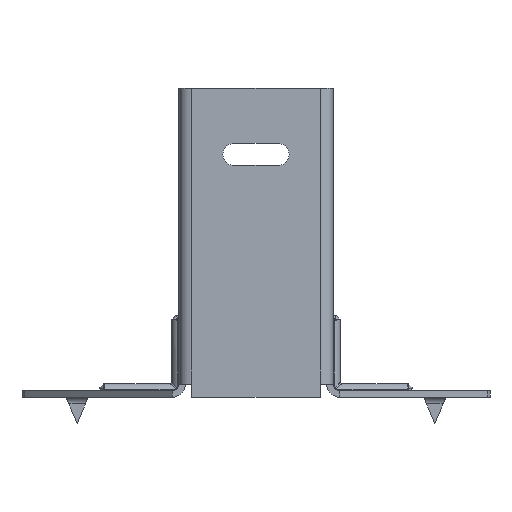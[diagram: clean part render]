
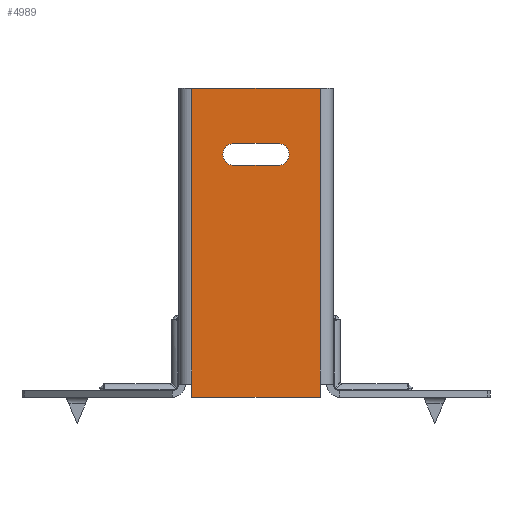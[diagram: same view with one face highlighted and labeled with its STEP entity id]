
A CAD part, front view. The second image highlights one B-rep face of the part: STEP entity #4989.
In plain terms, the highlighted planar face has unit normal (0, -1, 0).
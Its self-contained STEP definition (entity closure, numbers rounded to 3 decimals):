
#66 = VERTEX_POINT ( 'NONE', #2109 ) ;
#146 = ORIENTED_EDGE ( 'NONE', *, *, #16174, .T. ) ;
#246 = ORIENTED_EDGE ( 'NONE', *, *, #12665, .F. ) ;
#302 = CIRCLE ( 'NONE', #14723, 2.5 ) ;
#494 = EDGE_CURVE ( 'NONE', #9138, #4242, #302, .T. ) ;
#599 = PLANE ( 'NONE',  #5162 ) ;
#997 = VECTOR ( 'NONE', #2144, 1000. ) ;
#1013 = DIRECTION ( 'NONE',  ( 0., 1., 0. ) ) ;
#1116 = VECTOR ( 'NONE', #7525, 1000. ) ;
#1640 = CARTESIAN_POINT ( 'NONE',  ( -16., 0., 0. ) ) ;
#1842 = CARTESIAN_POINT ( 'NONE',  ( -14.5, 0., -67. ) ) ;
#1929 = FACE_OUTER_BOUND ( 'NONE', #13924, .T. ) ;
#2019 = DIRECTION ( 'NONE',  ( 0., 1., 0. ) ) ;
#2044 = ORIENTED_EDGE ( 'NONE', *, *, #7230, .F. ) ;
#2109 = CARTESIAN_POINT ( 'NONE',  ( 14.5, 0., -67. ) ) ;
#2144 = DIRECTION ( 'NONE',  ( 0., 0., 1. ) ) ;
#2525 = LINE ( 'NONE', #13162, #16282 ) ;
#2926 = EDGE_LOOP ( 'NONE', ( #8984, #7632, #146, #4651 ) ) ;
#3240 = CARTESIAN_POINT ( 'NONE',  ( 5., 0., -15. ) ) ;
#3322 = CARTESIAN_POINT ( 'NONE',  ( -5., 0., -12.5 ) ) ;
#3440 = ORIENTED_EDGE ( 'NONE', *, *, #13920, .T. ) ;
#3665 = DIRECTION ( 'NONE',  ( 0., 0., 1. ) ) ;
#3931 = LINE ( 'NONE', #4703, #1116 ) ;
#4242 = VERTEX_POINT ( 'NONE', #12022 ) ;
#4651 = ORIENTED_EDGE ( 'NONE', *, *, #494, .T. ) ;
#4703 = CARTESIAN_POINT ( 'NONE',  ( -5., 0., -17.5 ) ) ;
#4734 = ORIENTED_EDGE ( 'NONE', *, *, #8776, .T. ) ;
#4851 = VERTEX_POINT ( 'NONE', #15616 ) ;
#4989 = ADVANCED_FACE ( 'NONE', ( #12058, #1929 ), #599, .F. ) ;
#5162 = AXIS2_PLACEMENT_3D ( 'NONE', #9265, #1013, #10639 ) ;
#5367 = AXIS2_PLACEMENT_3D ( 'NONE', #10492, #2019, #3665 ) ;
#5635 = LINE ( 'NONE', #14764, #6307 ) ;
#5875 = DIRECTION ( 'NONE',  ( 0., 0., -1. ) ) ;
#6307 = VECTOR ( 'NONE', #9114, 1000. ) ;
#6440 = VERTEX_POINT ( 'NONE', #14651 ) ;
#6667 = DIRECTION ( 'NONE',  ( -1., 0., 0. ) ) ;
#6828 = CARTESIAN_POINT ( 'NONE',  ( 14.5, 0., 0. ) ) ;
#7003 = CARTESIAN_POINT ( 'NONE',  ( -5., 0., -17.5 ) ) ;
#7230 = EDGE_CURVE ( 'NONE', #16173, #4851, #7268, .T. ) ;
#7268 = LINE ( 'NONE', #14898, #14395 ) ;
#7289 = VERTEX_POINT ( 'NONE', #7003 ) ;
#7525 = DIRECTION ( 'NONE',  ( -1., 0., 0. ) ) ;
#7632 = ORIENTED_EDGE ( 'NONE', *, *, #12363, .T. ) ;
#7670 = CARTESIAN_POINT ( 'NONE',  ( 14.5, 0., -70. ) ) ;
#8376 = VERTEX_POINT ( 'NONE', #6828 ) ;
#8545 = DIRECTION ( 'NONE',  ( 1., 0., 0. ) ) ;
#8629 = VERTEX_POINT ( 'NONE', #1842 ) ;
#8776 = EDGE_CURVE ( 'NONE', #16173, #66, #13685, .T. ) ;
#8890 = CIRCLE ( 'NONE', #5367, 2.5 ) ;
#8961 = DIRECTION ( 'NONE',  ( 0., 0., -1. ) ) ;
#8984 = ORIENTED_EDGE ( 'NONE', *, *, #16671, .T. ) ;
#9114 = DIRECTION ( 'NONE',  ( 1., 0., 0. ) ) ;
#9138 = VERTEX_POINT ( 'NONE', #12630 ) ;
#9256 = DIRECTION ( 'NONE',  ( 0., 0., 1. ) ) ;
#9265 = CARTESIAN_POINT ( 'NONE',  ( 0., 0., 0. ) ) ;
#9733 = EDGE_CURVE ( 'NONE', #66, #8376, #2525, .T. ) ;
#9891 = ORIENTED_EDGE ( 'NONE', *, *, #17418, .T. ) ;
#10492 = CARTESIAN_POINT ( 'NONE',  ( -5., 0., -15. ) ) ;
#10639 = DIRECTION ( 'NONE',  ( 0., 0., 1. ) ) ;
#11531 = CARTESIAN_POINT ( 'NONE',  ( -14.5, 0., 0. ) ) ;
#11534 = DIRECTION ( 'NONE',  ( 0., 1., 0. ) ) ;
#11589 = CARTESIAN_POINT ( 'NONE',  ( 14.5, 0., -70. ) ) ;
#12022 = CARTESIAN_POINT ( 'NONE',  ( 5., 0., -17.5 ) ) ;
#12058 = FACE_BOUND ( 'NONE', #2926, .T. ) ;
#12363 = EDGE_CURVE ( 'NONE', #7289, #13961, #8890, .T. ) ;
#12630 = CARTESIAN_POINT ( 'NONE',  ( 5., 0., -12.5 ) ) ;
#12665 = EDGE_CURVE ( 'NONE', #6440, #8376, #12950, .T. ) ;
#12801 = VECTOR ( 'NONE', #8961, 1000. ) ;
#12928 = VECTOR ( 'NONE', #5875, 1000. ) ;
#12950 = LINE ( 'NONE', #1640, #15525 ) ;
#12988 = CARTESIAN_POINT ( 'NONE',  ( -14.5, 0., 0. ) ) ;
#13162 = CARTESIAN_POINT ( 'NONE',  ( 14.5, 0., -70. ) ) ;
#13685 = LINE ( 'NONE', #11589, #997 ) ;
#13920 = EDGE_CURVE ( 'NONE', #6440, #8629, #16463, .T. ) ;
#13924 = EDGE_LOOP ( 'NONE', ( #3440, #9891, #2044, #4734, #15899, #246 ) ) ;
#13961 = VERTEX_POINT ( 'NONE', #3322 ) ;
#14395 = VECTOR ( 'NONE', #6667, 1000. ) ;
#14651 = CARTESIAN_POINT ( 'NONE',  ( -14.5, 0., 0. ) ) ;
#14723 = AXIS2_PLACEMENT_3D ( 'NONE', #3240, #11534, #15538 ) ;
#14764 = CARTESIAN_POINT ( 'NONE',  ( -5., 0., -12.5 ) ) ;
#14898 = CARTESIAN_POINT ( 'NONE',  ( -16., 0., -70. ) ) ;
#15525 = VECTOR ( 'NONE', #8545, 1000. ) ;
#15538 = DIRECTION ( 'NONE',  ( 0., 0., 1. ) ) ;
#15616 = CARTESIAN_POINT ( 'NONE',  ( -14.5, 0., -70. ) ) ;
#15899 = ORIENTED_EDGE ( 'NONE', *, *, #9733, .T. ) ;
#16173 = VERTEX_POINT ( 'NONE', #7670 ) ;
#16174 = EDGE_CURVE ( 'NONE', #13961, #9138, #5635, .T. ) ;
#16282 = VECTOR ( 'NONE', #9256, 1000. ) ;
#16463 = LINE ( 'NONE', #12988, #12801 ) ;
#16671 = EDGE_CURVE ( 'NONE', #4242, #7289, #3931, .T. ) ;
#17418 = EDGE_CURVE ( 'NONE', #8629, #4851, #17426, .T. ) ;
#17426 = LINE ( 'NONE', #11531, #12928 ) ;
